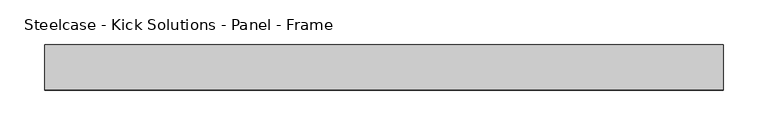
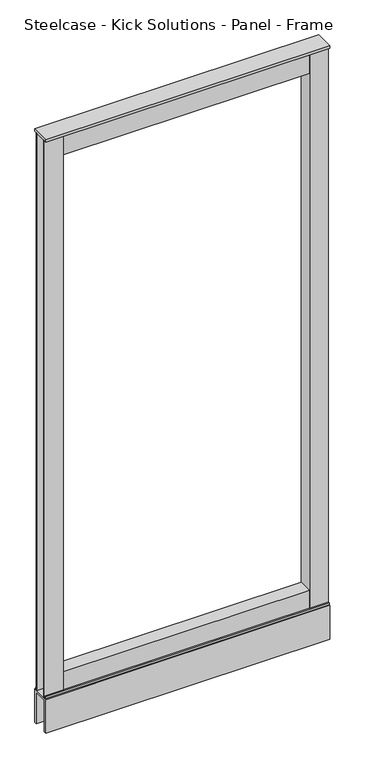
"""IFC4 building model written with IfcOpenShell, lengths in millimetres: furniture geometry, Steelcase - Kick Solutions - Panel - Frame : 66H x 30W."""

from ifc_helpers import new_model, si_unit, frame, origin, place, context, project, spatial, polyline, outline, extrude, source, transform, mapped, element, save


def steelcase_kick_solutions_panel_frame_f1c0a75c(model_context):
    return source(origin(), model_context, "Body", "SweptSolid", [
        extrude(outline(polyline([(50.8006646, 6.3506854), (50.8006646, -31.7493123), (0.0, -31.7493123), (0.0, -29.2093123), (48.2606646, -29.2093123), (48.2606646, 3.8106854), (0.0, 3.8106854), (0.0, 6.3506854), (50.8006646, 6.3506854)])), frame((0.0, 0.0, 95.25), z_axis=(0.0, 0.0, 1.0), x_axis=(1.0, 0.0, 0.0)), (0.0, 0.0, 1.0), 1581.15),
        extrude(outline(polyline([(711.2006661, 6.3506854), (762.0, 6.3506854), (762.0, 3.8106854), (713.7393354, 3.8106854), (713.7393354, -29.2093123), (762.0, -29.2093123), (762.0, -31.7493123), (711.2006661, -31.7493123), (711.2006661, 6.3506854)])), frame((0.0, 0.0, 95.25), z_axis=(0.0, 0.0, 1.0), x_axis=(1.0, 0.0, 0.0)), (0.0, 0.0, 1.0), 1581.15),
        extrude(outline(polyline([(6.3506854, 101.600003), (9.5256855, 101.600003), (9.5256855, 95.25), (8.409661, 95.25), (8.409661, 100.2902081), (6.3506854, 100.2902081), (6.3506854, 101.600003)])), frame((0.0, 0.0, 0.0), z_axis=(1.0, 0.0, 0.0), x_axis=(0.0, 1.0, 0.0)), (0.0, 0.0, 1.0), 762.0),
        extrude(outline(polyline([(-34.9243138, 101.600003), (-31.7493123, 101.600003), (-31.7493123, 100.2902081), (-33.8479845, 100.2902081), (-33.8479845, 95.25), (-34.9243138, 95.25), (-34.9243138, 101.600003)])), frame((0.0, 0.0, 0.0), z_axis=(1.0, 0.0, 0.0), x_axis=(0.0, 1.0, 0.0)), (0.0, 0.0, 1.0), 762.0),
        extrude(outline(polyline([(711.2006661, -31.7493123), (50.8006646, -31.7493123), (50.8006646, 6.3506854), (711.2006661, 6.3506854), (711.2006661, -31.7493123)])), frame((0.0, 0.0, 1619.2500242), z_axis=(0.0, 0.0, 1.0), x_axis=(1.0, 0.0, 0.0)), (0.0, 0.0, 1.0), 57.1499758),
        extrude(outline(polyline([(711.2006661, -31.7493123), (50.8006646, -31.7493123), (50.8006646, 6.3506854), (711.2006661, 6.3506854), (711.2006661, -31.7493123)])), frame((0.0, 0.0, 95.25), z_axis=(0.0, 0.0, 1.0), x_axis=(1.0, 0.0, 0.0)), (0.0, 0.0, 1.0), 57.15),
        extrude(outline(polyline([(762.0, 12.7000004), (762.0, -38.1000011), (0.0, -38.1000011), (0.0, 12.7000004), (762.0, 12.7000004)])), frame((0.0, 0.0, 1676.4), z_axis=(0.0, 0.0, 1.0), x_axis=(1.0, 0.0, 0.0)), (0.0, 0.0, 1.0), 6.35),
        extrude(outline(polyline([(-38.1000011, 95.25), (12.7000004, 95.25), (12.7000004, 0.0), (6.3506854, 0.0), (6.3506854, 88.9), (-31.7493123, 88.9), (-31.7493123, 0.0), (-38.1000011, 0.0), (-38.1000011, 95.25)])), frame((0.0, 0.0, 0.0), z_axis=(1.0, 0.0, 0.0), x_axis=(0.0, 1.0, 0.0)), (0.0, 0.0, 1.0), 762.0),
    ])


if __name__ == "__main__":
    model = new_model("IFC4")
    model_context = context("Model", 3, world=origin())
    ifc_project = project(units=[si_unit("LENGTHUNIT", "METRE", prefix="MILLI")], contexts=[model_context])
    site = spatial("IfcSite", under=ifc_project)
    building = spatial("IfcBuilding", under=site)
    placement = place(None, origin())
    steelcase_kick_solutions_panel_frame_shape = steelcase_kick_solutions_panel_frame_f1c0a75c(model_context)
    element("IfcFurniture", 1, ObjectType="Steelcase - Kick Solutions - Panel - Frame : 66H x 30W", at=placement, inside=building, context=model_context, shape_type="MappedRepresentation", body=[
        mapped(steelcase_kick_solutions_panel_frame_shape, transform((0.0, 0.0, 0.0), x_axis=(1.0, 0.0, 0.0), y_axis=(0.0, 1.0, 0.0), z_axis=(0.0, 0.0, 1.0))),
    ])
    save(model, "model.ifc")
